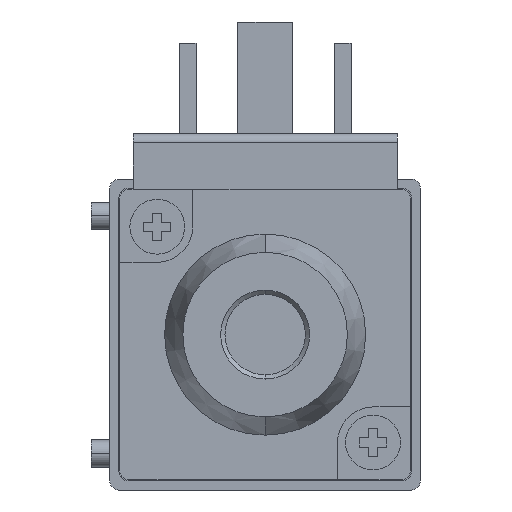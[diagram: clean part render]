
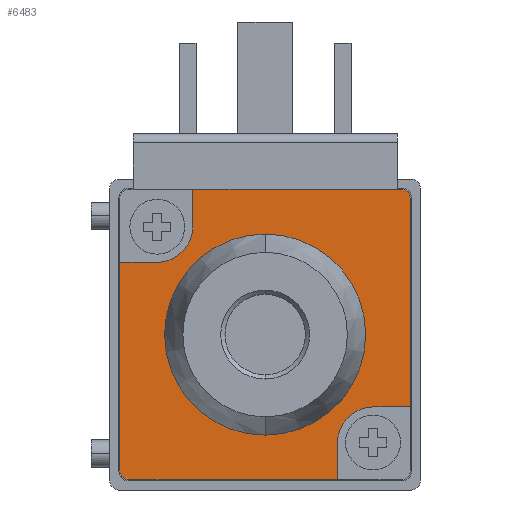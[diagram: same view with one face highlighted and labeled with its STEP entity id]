
A CAD part, front view. The second image highlights one B-rep face of the part: STEP entity #6483.
In plain terms, the highlighted planar face has unit normal (0, -1, 0).
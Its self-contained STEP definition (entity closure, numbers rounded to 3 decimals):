
#2273=CARTESIAN_POINT('',(0.,-5.,0.));
#2274=DIRECTION('',(0.,1.,0.));
#2275=DIRECTION('',(0.,0.,1.));
#2276=AXIS2_PLACEMENT_3D('',#2273,#2274,#2275);
#2281=CARTESIAN_POINT('',(0.,-5.,0.));
#2282=DIRECTION('',(0.,1.,0.));
#2283=DIRECTION('',(0.,0.,-1.));
#2284=AXIS2_PLACEMENT_3D('',#2281,#2282,#2283);
#2289=DIRECTION('',(1.,0.,0.));
#2290=VECTOR('',#2289,22.8);
#2291=CARTESIAN_POINT('',(-14.9,-5.,-15.9));
#2292=LINE('',#2291,#2290);
#2296=CARTESIAN_POINT('',(-14.9,-5.,-14.9));
#2297=DIRECTION('',(0.,-1.,0.));
#2298=DIRECTION('',(-1.,0.,0.));
#2299=AXIS2_PLACEMENT_3D('',#2296,#2297,#2298);
#2304=DIRECTION('',(0.,0.,-1.));
#2305=VECTOR('',#2304,22.8);
#2306=CARTESIAN_POINT('',(-15.9,-5.,7.9));
#2307=LINE('',#2306,#2305);
#2311=DIRECTION('',(1.,0.,0.));
#2312=VECTOR('',#2311,4.);
#2313=CARTESIAN_POINT('',(-15.9,-5.,7.9));
#2314=LINE('',#2313,#2312);
#2318=CARTESIAN_POINT('',(-11.9,-5.,11.9));
#2319=DIRECTION('',(0.,-1.,0.));
#2320=DIRECTION('',(0.,0.,-1.));
#2321=AXIS2_PLACEMENT_3D('',#2318,#2319,#2320);
#2326=DIRECTION('',(0.,0.,-1.));
#2327=VECTOR('',#2326,4.);
#2328=CARTESIAN_POINT('',(-7.9,-5.,15.9));
#2329=LINE('',#2328,#2327);
#2333=DIRECTION('',(-1.,0.,0.));
#2334=VECTOR('',#2333,22.8);
#2335=CARTESIAN_POINT('',(14.9,-5.,15.9));
#2336=LINE('',#2335,#2334);
#2340=CARTESIAN_POINT('',(14.9,-5.,14.9));
#2341=DIRECTION('',(0.,-1.,0.));
#2342=DIRECTION('',(1.,0.,0.));
#2343=AXIS2_PLACEMENT_3D('',#2340,#2341,#2342);
#2348=DIRECTION('',(0.,0.,1.));
#2349=VECTOR('',#2348,22.8);
#2350=CARTESIAN_POINT('',(15.9,-5.,-7.9));
#2351=LINE('',#2350,#2349);
#2355=DIRECTION('',(-1.,0.,0.));
#2356=VECTOR('',#2355,4.);
#2357=CARTESIAN_POINT('',(15.9,-5.,-7.9));
#2358=LINE('',#2357,#2356);
#2362=CARTESIAN_POINT('',(11.9,-5.,-11.9));
#2363=DIRECTION('',(0.,-1.,0.));
#2364=DIRECTION('',(0.,0.,1.));
#2365=AXIS2_PLACEMENT_3D('',#2362,#2363,#2364);
#2370=DIRECTION('',(0.,0.,1.));
#2371=VECTOR('',#2370,4.);
#2372=CARTESIAN_POINT('',(7.9,-5.,-15.9));
#2373=LINE('',#2372,#2371);
#3042=CARTESIAN_POINT('',(-15.9,-5.,-14.9));
#3043=CARTESIAN_POINT('',(-14.9,-5.,-15.9));
#3044=VERTEX_POINT('',#3042);
#3045=VERTEX_POINT('',#3043);
#3046=CARTESIAN_POINT('',(15.9,-5.,14.9));
#3047=CARTESIAN_POINT('',(14.9,-5.,15.9));
#3048=VERTEX_POINT('',#3046);
#3049=VERTEX_POINT('',#3047);
#3072=CARTESIAN_POINT('',(0.,-5.,11.));
#3073=VERTEX_POINT('',#3072);
#3076=CARTESIAN_POINT('',(0.,-5.,-11.));
#3077=VERTEX_POINT('',#3076);
#3102=CARTESIAN_POINT('',(7.9,-5.,-15.9));
#3103=VERTEX_POINT('',#3102);
#3104=CARTESIAN_POINT('',(15.9,-5.,-7.9));
#3105=VERTEX_POINT('',#3104);
#3106=CARTESIAN_POINT('',(-7.9,-5.,15.9));
#3107=VERTEX_POINT('',#3106);
#3108=CARTESIAN_POINT('',(-15.9,-5.,7.9));
#3109=VERTEX_POINT('',#3108);
#3118=CARTESIAN_POINT('',(11.9,-5.,-7.9));
#3119=VERTEX_POINT('',#3118);
#3120=CARTESIAN_POINT('',(7.9,-5.,-11.9));
#3121=VERTEX_POINT('',#3120);
#3122=CARTESIAN_POINT('',(-11.9,-5.,7.9));
#3123=VERTEX_POINT('',#3122);
#3124=CARTESIAN_POINT('',(-7.9,-5.,11.9));
#3125=VERTEX_POINT('',#3124);
#6451=CARTESIAN_POINT('',(0.,-5.,0.));
#6452=DIRECTION('',(0.,-1.,0.));
#6453=DIRECTION('',(0.,0.,1.));
#6454=AXIS2_PLACEMENT_3D('',#6451,#6452,#6453);
#6455=PLANE('',#6454);
#6456=ORIENTED_EDGE('',*,*,#6353,.F.);
#6457=ORIENTED_EDGE('',*,*,#6160,.F.);
#6458=ORIENTED_EDGE('',*,*,#6184,.F.);
#6460=ORIENTED_EDGE('',*,*,#6459,.T.);
#6462=ORIENTED_EDGE('',*,*,#6461,.T.);
#6464=ORIENTED_EDGE('',*,*,#6463,.F.);
#6466=ORIENTED_EDGE('',*,*,#6465,.F.);
#6468=ORIENTED_EDGE('',*,*,#6467,.F.);
#6469=ORIENTED_EDGE('',*,*,#6395,.F.);
#6470=ORIENTED_EDGE('',*,*,#6416,.T.);
#6472=ORIENTED_EDGE('',*,*,#6471,.T.);
#6474=ORIENTED_EDGE('',*,*,#6473,.F.);
#6475=EDGE_LOOP('',(#6456,#6457,#6458,#6460,#6462,#6464,#6466,#6468,#6469,#6470,
#6472,#6474));
#6476=FACE_OUTER_BOUND('',#6475,.F.);
#6478=ORIENTED_EDGE('',*,*,#6477,.F.);
#6480=ORIENTED_EDGE('',*,*,#6479,.F.);
#6481=EDGE_LOOP('',(#6478,#6480));
#6482=FACE_BOUND('',#6481,.F.);
#6483=ADVANCED_FACE('',(#6476,#6482),#6455,.T.);
#2277=CIRCLE('',#2276,11.);
#2285=CIRCLE('',#2284,11.);
#2300=CIRCLE('',#2299,1.);
#2322=CIRCLE('',#2321,4.);
#2344=CIRCLE('',#2343,1.);
#2366=CIRCLE('',#2365,4.);
#6160=EDGE_CURVE('',#3044,#3045,#2300,.T.);
#6184=EDGE_CURVE('',#3109,#3044,#2307,.T.);
#6353=EDGE_CURVE('',#3045,#3103,#2292,.T.);
#6395=EDGE_CURVE('',#3105,#3048,#2351,.T.);
#6416=EDGE_CURVE('',#3105,#3119,#2358,.T.);
#6459=EDGE_CURVE('',#3109,#3123,#2314,.T.);
#6461=EDGE_CURVE('',#3123,#3125,#2322,.T.);
#6463=EDGE_CURVE('',#3107,#3125,#2329,.T.);
#6465=EDGE_CURVE('',#3049,#3107,#2336,.T.);
#6467=EDGE_CURVE('',#3048,#3049,#2344,.T.);
#6471=EDGE_CURVE('',#3119,#3121,#2366,.T.);
#6473=EDGE_CURVE('',#3103,#3121,#2373,.T.);
#6477=EDGE_CURVE('',#3073,#3077,#2277,.T.);
#6479=EDGE_CURVE('',#3077,#3073,#2285,.T.);
